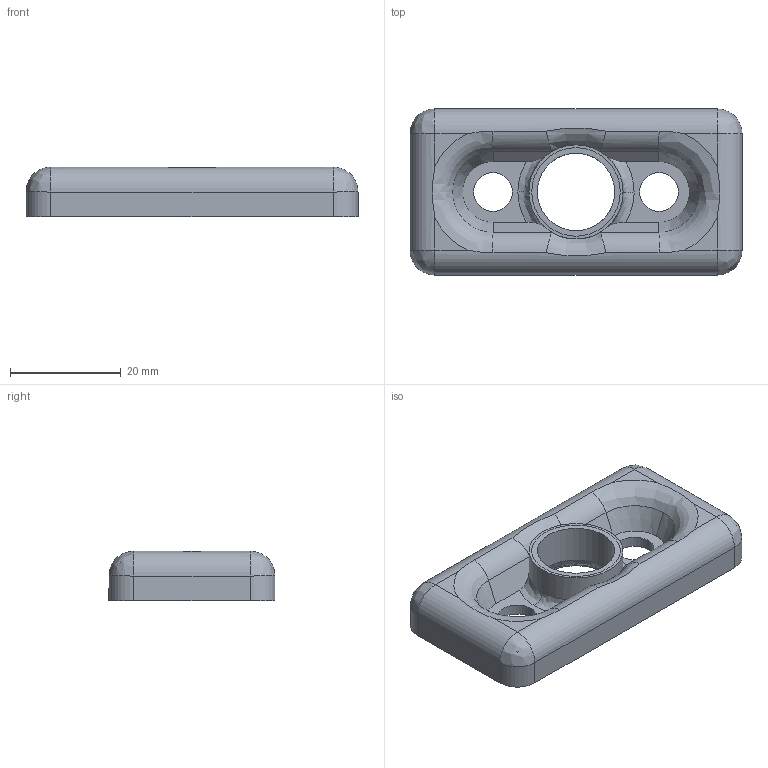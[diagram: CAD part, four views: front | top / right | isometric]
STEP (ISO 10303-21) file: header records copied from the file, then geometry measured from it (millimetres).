
FILE_DESCRIPTION (( 'STEP AP203' ), '1' );
FILE_NAME ('DFB3060(Z+S.M12+M16).STEP', '2020-10-14T02:36:54', ( '' ), ( '' ), 'SwSTEP 2.0', 'SolidWorks 2017', '' );
FILE_SCHEMA (( 'CONFIG_CONTROL_DESIGN' ));
Length unit declared in the file: millimetre
Products named in the file (1): DFB3060(Z+S.M12+M16)
Bounding box: 60 x 30 x 9 mm (x, y, z)
Surface area: 7483.9 mm2 (no closed solid volume)
Topology: 0 solids, 2 shells, 78 faces, 204 edges, 129 vertices
Faces by surface type: plane 27, cylinder 26, bspline 15, cone 10
Entity records: 2855 total; most frequent: CARTESIAN_POINT 959, ORIENTED_EDGE 404, DIRECTION 362, EDGE_CURVE 204, AXIS2_PLACEMENT_3D 142, VERTEX_POINT 129, EDGE_LOOP 85, LINE 78
